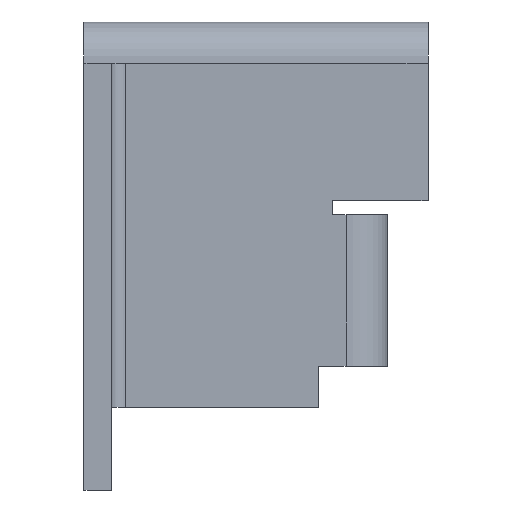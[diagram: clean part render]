
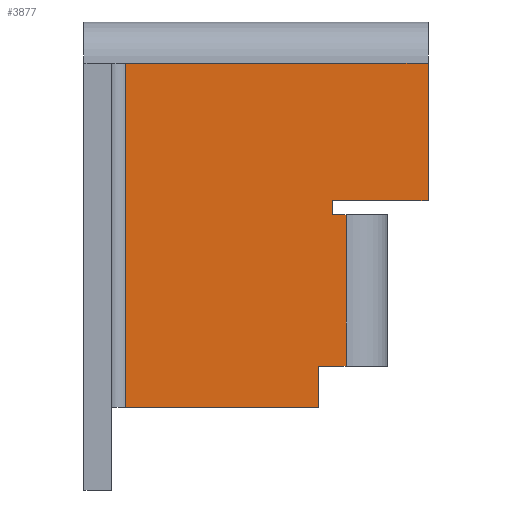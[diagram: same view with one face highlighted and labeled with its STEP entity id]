
A CAD part, left-side view. The second image highlights one B-rep face of the part: STEP entity #3877.
In plain terms, the highlighted planar face has unit normal (-1, 0, 0).
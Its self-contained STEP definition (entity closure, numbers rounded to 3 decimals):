
#231 = CARTESIAN_POINT ( 'NONE',  ( 0., 0., -11. ) ) ;
#255 = CARTESIAN_POINT ( 'NONE',  ( 0., 7.96, 0. ) ) ;
#269 = VECTOR ( 'NONE', #3062, 1000. ) ;
#362 = VERTEX_POINT ( 'NONE', #231 ) ;
#405 = LINE ( 'NONE', #2825, #406 ) ;
#406 = VECTOR ( 'NONE', #5590, 1000. ) ;
#487 = EDGE_CURVE ( 'NONE', #3690, #2661, #1521, .T. ) ;
#564 = ORIENTED_EDGE ( 'NONE', *, *, #5249, .F. ) ;
#721 = DIRECTION ( 'NONE',  ( 0., 0., 1. ) ) ;
#1070 = DIRECTION ( 'NONE',  ( 0., 0., -1. ) ) ;
#1232 = ORIENTED_EDGE ( 'NONE', *, *, #3284, .T. ) ;
#1290 = CARTESIAN_POINT ( 'NONE',  ( 0., 22., -1. ) ) ;
#1521 = LINE ( 'NONE', #2691, #3732 ) ;
#1626 = VECTOR ( 'NONE', #5376, 1000. ) ;
#1648 = EDGE_CURVE ( 'NONE', #2031, #1805, #4289, .T. ) ;
#1696 = CARTESIAN_POINT ( 'NONE',  ( 0., 0., 0. ) ) ;
#1754 = CARTESIAN_POINT ( 'NONE',  ( 0., 7.96, -26. ) ) ;
#1805 = VERTEX_POINT ( 'NONE', #1754 ) ;
#1991 = LINE ( 'NONE', #4394, #269 ) ;
#2021 = LINE ( 'NONE', #5180, #5362 ) ;
#2031 = VERTEX_POINT ( 'NONE', #2528 ) ;
#2037 = ORIENTED_EDGE ( 'NONE', *, *, #5065, .T. ) ;
#2080 = EDGE_CURVE ( 'NONE', #3227, #2661, #405, .T. ) ;
#2167 = VECTOR ( 'NONE', #721, 1000. ) ;
#2200 = VECTOR ( 'NONE', #5262, 1000. ) ;
#2281 = VERTEX_POINT ( 'NONE', #1290 ) ;
#2298 = ORIENTED_EDGE ( 'NONE', *, *, #7255, .T. ) ;
#2321 = LINE ( 'NONE', #2523, #1626 ) ;
#2403 = DIRECTION ( 'NONE',  ( 0., 0., 1. ) ) ;
#2422 = PLANE ( 'NONE',  #4000 ) ;
#2523 = CARTESIAN_POINT ( 'NONE',  ( 0., 0., -1. ) ) ;
#2528 = CARTESIAN_POINT ( 'NONE',  ( 0., 22., -26. ) ) ;
#2661 = VERTEX_POINT ( 'NONE', #3405 ) ;
#2691 = CARTESIAN_POINT ( 'NONE',  ( 0., 5.96, -26. ) ) ;
#2694 = CARTESIAN_POINT ( 'NONE',  ( 0., 0., -1. ) ) ;
#2825 = CARTESIAN_POINT ( 'NONE',  ( 0., 0., -12. ) ) ;
#3062 = DIRECTION ( 'NONE',  ( 0., 1., 0. ) ) ;
#3181 = DIRECTION ( 'NONE',  ( 0., -1., 0. ) ) ;
#3227 = VERTEX_POINT ( 'NONE', #3609 ) ;
#3284 = EDGE_CURVE ( 'NONE', #362, #6769, #5370, .T. ) ;
#3405 = CARTESIAN_POINT ( 'NONE',  ( 0., 5.96, -12. ) ) ;
#3592 = ORIENTED_EDGE ( 'NONE', *, *, #1648, .T. ) ;
#3609 = CARTESIAN_POINT ( 'NONE',  ( 0., 6.96, -12. ) ) ;
#3690 = VERTEX_POINT ( 'NONE', #7317 ) ;
#3732 = VECTOR ( 'NONE', #3916, 1000. ) ;
#3877 = ADVANCED_FACE ( 'NONE', ( #7387 ), #2422, .F. ) ;
#3916 = DIRECTION ( 'NONE',  ( 0., 0., 1. ) ) ;
#4000 = AXIS2_PLACEMENT_3D ( 'NONE', #1696, #6289, #5683 ) ;
#4271 = VECTOR ( 'NONE', #3181, 1000. ) ;
#4289 = LINE ( 'NONE', #4522, #4271 ) ;
#4306 = VECTOR ( 'NONE', #7323, 1000. ) ;
#4394 = CARTESIAN_POINT ( 'NONE',  ( 0., 0., -11. ) ) ;
#4522 = CARTESIAN_POINT ( 'NONE',  ( 0., 0., -26. ) ) ;
#4624 = CARTESIAN_POINT ( 'NONE',  ( 0., 6.96, -11. ) ) ;
#4704 = LINE ( 'NONE', #5145, #4306 ) ;
#4926 = ORIENTED_EDGE ( 'NONE', *, *, #7284, .F. ) ;
#4977 = CARTESIAN_POINT ( 'NONE',  ( 0., 7.96, -23. ) ) ;
#5018 = VERTEX_POINT ( 'NONE', #4977 ) ;
#5065 = EDGE_CURVE ( 'NONE', #1805, #5018, #7090, .T. ) ;
#5145 = CARTESIAN_POINT ( 'NONE',  ( 0., 0., -23. ) ) ;
#5180 = CARTESIAN_POINT ( 'NONE',  ( 0., 6.96, 0. ) ) ;
#5234 = VERTEX_POINT ( 'NONE', #4624 ) ;
#5249 = EDGE_CURVE ( 'NONE', #362, #5234, #1991, .T. ) ;
#5262 = DIRECTION ( 'NONE',  ( 0., 0., 1. ) ) ;
#5352 = VECTOR ( 'NONE', #2403, 1000. ) ;
#5362 = VECTOR ( 'NONE', #1070, 1000. ) ;
#5370 = LINE ( 'NONE', #5407, #2200 ) ;
#5376 = DIRECTION ( 'NONE',  ( 0., -1., 0. ) ) ;
#5407 = CARTESIAN_POINT ( 'NONE',  ( 0., 0., 0. ) ) ;
#5416 = EDGE_CURVE ( 'NONE', #2281, #6769, #2321, .T. ) ;
#5494 = EDGE_LOOP ( 'NONE', ( #2037, #2298, #5660, #7276, #5770, #564, #1232, #6486, #4926, #3592 ) ) ;
#5590 = DIRECTION ( 'NONE',  ( 0., -1., 0. ) ) ;
#5660 = ORIENTED_EDGE ( 'NONE', *, *, #487, .T. ) ;
#5683 = DIRECTION ( 'NONE',  ( 0., 0., -1. ) ) ;
#5732 = LINE ( 'NONE', #7548, #5352 ) ;
#5770 = ORIENTED_EDGE ( 'NONE', *, *, #6789, .F. ) ;
#6289 = DIRECTION ( 'NONE',  ( 1., 0., 0. ) ) ;
#6486 = ORIENTED_EDGE ( 'NONE', *, *, #5416, .F. ) ;
#6769 = VERTEX_POINT ( 'NONE', #2694 ) ;
#6789 = EDGE_CURVE ( 'NONE', #5234, #3227, #2021, .T. ) ;
#7090 = LINE ( 'NONE', #255, #2167 ) ;
#7255 = EDGE_CURVE ( 'NONE', #5018, #3690, #4704, .T. ) ;
#7276 = ORIENTED_EDGE ( 'NONE', *, *, #2080, .F. ) ;
#7284 = EDGE_CURVE ( 'NONE', #2031, #2281, #5732, .T. ) ;
#7317 = CARTESIAN_POINT ( 'NONE',  ( 0., 5.96, -23. ) ) ;
#7323 = DIRECTION ( 'NONE',  ( 0., -1., 0. ) ) ;
#7387 = FACE_OUTER_BOUND ( 'NONE', #5494, .T. ) ;
#7548 = CARTESIAN_POINT ( 'NONE',  ( 0., 22., -26. ) ) ;
